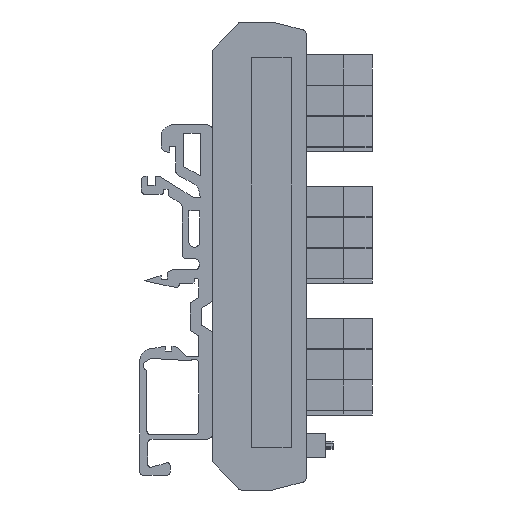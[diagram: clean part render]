
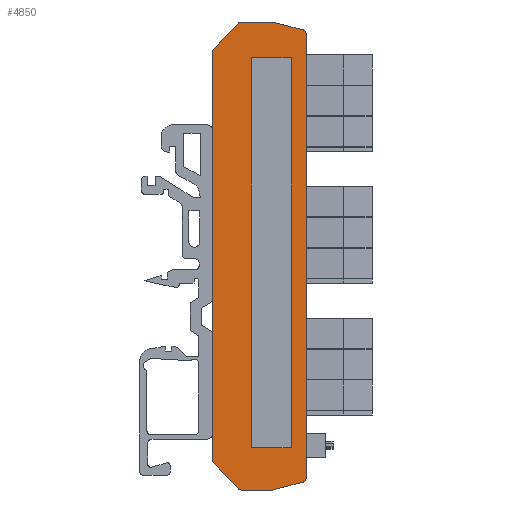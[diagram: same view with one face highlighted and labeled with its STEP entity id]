
A CAD part, front view. The second image highlights one B-rep face of the part: STEP entity #4850.
In plain terms, the highlighted planar face has unit normal (0, -1, 0).
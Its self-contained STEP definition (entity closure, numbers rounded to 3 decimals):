
#4850=ADVANCED_FACE('',(#17297,#17299),#17301,.F.);
#17297=FACE_BOUND('',#17298,.T.);
#17298=EDGE_LOOP('',(#30868,#30869,#30870,#30871,#30872,#30873,#30874,#30875,#30876,
#30877,#30878,#30879,#30880,#30881));
#17299=FACE_BOUND('',#17300,.T.);
#17300=EDGE_LOOP('',(#30882,#30883,#30884,#30885));
#17301=PLANE('',#17302);
#17302=AXIS2_PLACEMENT_3D('',#17303,#17304,#17305);
#17303=CARTESIAN_POINT('',(15.5,-11.25,37.25));
#17304=DIRECTION('',(0.,1.,0.));
#17305=DIRECTION('',(1.,0.,0.));
#30868=ORIENTED_EDGE('',*,*,#40369,.F.);
#30869=ORIENTED_EDGE('',*,*,#40370,.F.);
#30870=ORIENTED_EDGE('',*,*,#40371,.F.);
#30871=ORIENTED_EDGE('',*,*,#40372,.F.);
#30872=ORIENTED_EDGE('',*,*,#40373,.F.);
#30873=ORIENTED_EDGE('',*,*,#40374,.F.);
#30874=ORIENTED_EDGE('',*,*,#40049,.F.);
#30875=ORIENTED_EDGE('',*,*,#40368,.F.);
#30876=ORIENTED_EDGE('',*,*,#40375,.F.);
#30877=ORIENTED_EDGE('',*,*,#40376,.F.);
#30878=ORIENTED_EDGE('',*,*,#40377,.F.);
#30879=ORIENTED_EDGE('',*,*,#40378,.F.);
#30880=ORIENTED_EDGE('',*,*,#40379,.F.);
#30881=ORIENTED_EDGE('',*,*,#40380,.F.);
#30882=ORIENTED_EDGE('',*,*,#40381,.T.);
#30883=ORIENTED_EDGE('',*,*,#40382,.T.);
#30884=ORIENTED_EDGE('',*,*,#40383,.T.);
#30885=ORIENTED_EDGE('',*,*,#40384,.T.);
#40049=EDGE_CURVE('',#46737,#46739,#46740,.T.);
#40368=EDGE_CURVE('',#47275,#46737,#47277,.T.);
#40369=EDGE_CURVE('',#47278,#47279,#47280,.T.);
#40370=EDGE_CURVE('',#47281,#47278,#47282,.T.);
#40371=EDGE_CURVE('',#47283,#47281,#47284,.T.);
#40372=EDGE_CURVE('',#47285,#47283,#47286,.T.);
#40373=EDGE_CURVE('',#47287,#47285,#47288,.T.);
#40374=EDGE_CURVE('',#46739,#47287,#47289,.T.);
#40375=EDGE_CURVE('',#47290,#47275,#47291,.T.);
#40376=EDGE_CURVE('',#47292,#47290,#47293,.T.);
#40377=EDGE_CURVE('',#47294,#47292,#47295,.T.);
#40378=EDGE_CURVE('',#47296,#47294,#47297,.T.);
#40379=EDGE_CURVE('',#47298,#47296,#47299,.T.);
#40380=EDGE_CURVE('',#47279,#47298,#47300,.T.);
#40381=EDGE_CURVE('',#47301,#47302,#47303,.T.);
#40382=EDGE_CURVE('',#47302,#47304,#47305,.T.);
#40383=EDGE_CURVE('',#47304,#47306,#47307,.T.);
#40384=EDGE_CURVE('',#47306,#47301,#47308,.T.);
#46737=VERTEX_POINT('',#57084);
#46739=VERTEX_POINT('',#57088);
#46740=LINE('',#57089,#57090);
#47275=VERTEX_POINT('',#58330);
#47277=CIRCLE('',#58334,0.7);
#47278=VERTEX_POINT('',#58338);
#47279=VERTEX_POINT('',#58339);
#47280=CIRCLE('',#58340,0.7);
#47281=VERTEX_POINT('',#58344);
#47282=LINE('',#58345,#58346);
#47283=VERTEX_POINT('',#58348);
#47284=CIRCLE('',#58349,0.7);
#47285=VERTEX_POINT('',#58353);
#47286=LINE('',#58354,#58355);
#47287=VERTEX_POINT('',#58357);
#47288=LINE('',#58358,#58359);
#47289=CIRCLE('',#58361,0.7);
#47290=VERTEX_POINT('',#58365);
#47291=LINE('',#58366,#58367);
#47292=VERTEX_POINT('',#58369);
#47293=LINE('',#58370,#58371);
#47294=VERTEX_POINT('',#58373);
#47295=CIRCLE('',#58374,0.7);
#47296=VERTEX_POINT('',#58378);
#47297=LINE('',#58379,#58380);
#47298=VERTEX_POINT('',#58382);
#47299=CIRCLE('',#58383,0.7);
#47300=LINE('',#58387,#58388);
#47301=VERTEX_POINT('',#58390);
#47302=VERTEX_POINT('',#58391);
#47303=LINE('',#58392,#58393);
#47304=VERTEX_POINT('',#58395);
#47305=LINE('',#58396,#58397);
#47306=VERTEX_POINT('',#58399);
#47307=LINE('',#58400,#58401);
#47308=LINE('',#58403,#58404);
#57084=CARTESIAN_POINT('',(15.5,-11.25,36.711));
#57088=CARTESIAN_POINT('',(15.5,-11.25,-36.711));
#57089=CARTESIAN_POINT('',(15.5,-11.25,36.711));
#57090=VECTOR('',#57091,1.);
#57091=DIRECTION('',(0.,0.,-1.));
#58330=CARTESIAN_POINT('',(14.978,-11.25,37.388));
#58334=AXIS2_PLACEMENT_3D('',#58335,#58336,#58337);
#58335=CARTESIAN_POINT('',(14.8,-11.25,36.711));
#58336=DIRECTION('',(0.,1.,0.));
#58337=DIRECTION('',(0.255,0.,0.967));
#58338=CARTESIAN_POINT('',(0.194,-11.25,-34.203));
#58339=CARTESIAN_POINT('',(0.,-11.25,-33.719));
#58340=AXIS2_PLACEMENT_3D('',#58341,#58342,#58343);
#58341=CARTESIAN_POINT('',(0.7,-11.25,-33.719));
#58342=DIRECTION('',(0.,1.,0.));
#58343=DIRECTION('',(-0.722,0.,-0.692));
#58344=CARTESIAN_POINT('',(4.293,-11.25,-38.484));
#58345=CARTESIAN_POINT('',(4.293,-11.25,-38.484));
#58346=VECTOR('',#58347,1.);
#58347=DIRECTION('',(-0.692,0.,0.722));
#58348=CARTESIAN_POINT('',(4.799,-11.25,-38.7));
#58349=AXIS2_PLACEMENT_3D('',#58350,#58351,#58352);
#58350=CARTESIAN_POINT('',(4.799,-11.25,-38.));
#58351=DIRECTION('',(0.,1.,0.));
#58352=DIRECTION('',(0.,0.,-1.));
#58353=CARTESIAN_POINT('',(10.,-11.25,-38.7));
#58354=CARTESIAN_POINT('',(10.,-11.25,-38.7));
#58355=VECTOR('',#58356,1.);
#58356=DIRECTION('',(-1.,0.,0.));
#58357=CARTESIAN_POINT('',(14.978,-11.25,-37.388));
#58358=CARTESIAN_POINT('',(14.978,-11.25,-37.388));
#58359=VECTOR('',#58360,1.);
#58360=DIRECTION('',(-0.967,0.,-0.255));
#58361=AXIS2_PLACEMENT_3D('',#58362,#58363,#58364);
#58362=CARTESIAN_POINT('',(14.8,-11.25,-36.711));
#58363=DIRECTION('',(0.,1.,0.));
#58364=DIRECTION('',(1.,0.,0.));
#58365=CARTESIAN_POINT('',(10.,-11.25,38.7));
#58366=CARTESIAN_POINT('',(10.,-11.25,38.7));
#58367=VECTOR('',#58368,1.);
#58368=DIRECTION('',(0.967,0.,-0.255));
#58369=CARTESIAN_POINT('',(4.799,-11.25,38.7));
#58370=CARTESIAN_POINT('',(4.799,-11.25,38.7));
#58371=VECTOR('',#58372,1.);
#58372=DIRECTION('',(1.,0.,0.));
#58373=CARTESIAN_POINT('',(4.293,-11.25,38.484));
#58374=AXIS2_PLACEMENT_3D('',#58375,#58376,#58377);
#58375=CARTESIAN_POINT('',(4.799,-11.25,38.));
#58376=DIRECTION('',(0.,1.,0.));
#58377=DIRECTION('',(-0.722,0.,0.692));
#58378=CARTESIAN_POINT('',(0.194,-11.25,34.203));
#58379=CARTESIAN_POINT('',(0.194,-11.25,34.203));
#58380=VECTOR('',#58381,1.);
#58381=DIRECTION('',(0.692,0.,0.722));
#58382=CARTESIAN_POINT('',(0.,-11.25,33.719));
#58383=AXIS2_PLACEMENT_3D('',#58384,#58385,#58386);
#58384=CARTESIAN_POINT('',(0.7,-11.25,33.719));
#58385=DIRECTION('',(0.,1.,0.));
#58386=DIRECTION('',(-1.,0.,0.));
#58387=CARTESIAN_POINT('',(0.,-11.25,-33.719));
#58388=VECTOR('',#58389,1.);
#58389=DIRECTION('',(0.,0.,1.));
#58390=CARTESIAN_POINT('',(13.,-11.25,32.8));
#58391=CARTESIAN_POINT('',(13.,-11.25,-31.7));
#58392=CARTESIAN_POINT('',(13.,-11.25,32.8));
#58393=VECTOR('',#58394,1.);
#58394=DIRECTION('',(0.,0.,-1.));
#58395=CARTESIAN_POINT('',(6.5,-11.25,-31.7));
#58396=CARTESIAN_POINT('',(13.,-11.25,-31.7));
#58397=VECTOR('',#58398,1.);
#58398=DIRECTION('',(-1.,0.,0.));
#58399=CARTESIAN_POINT('',(6.5,-11.25,32.8));
#58400=CARTESIAN_POINT('',(6.5,-11.25,-31.7));
#58401=VECTOR('',#58402,1.);
#58402=DIRECTION('',(0.,0.,1.));
#58403=CARTESIAN_POINT('',(6.5,-11.25,32.8));
#58404=VECTOR('',#58405,1.);
#58405=DIRECTION('',(1.,0.,0.));
